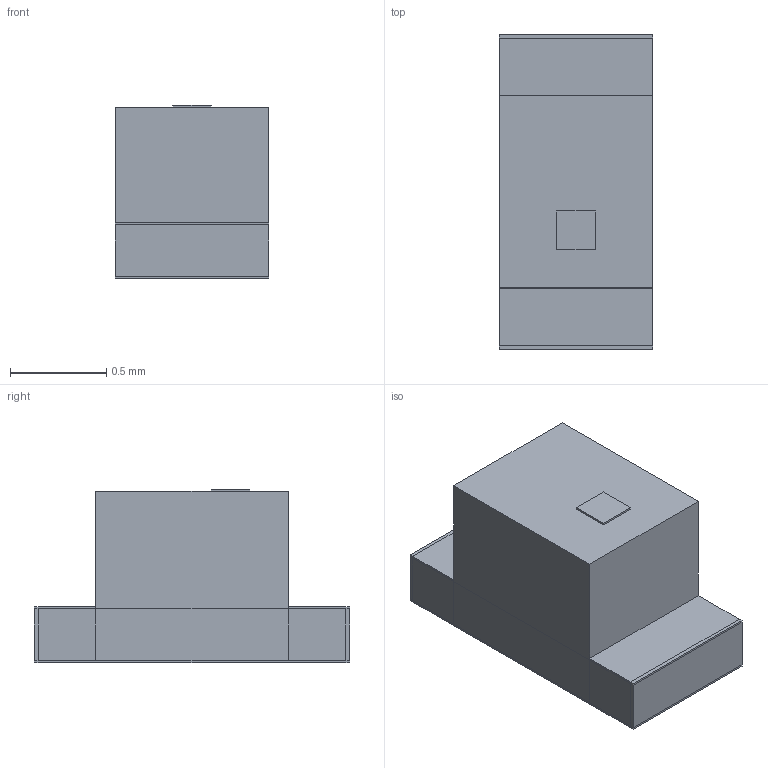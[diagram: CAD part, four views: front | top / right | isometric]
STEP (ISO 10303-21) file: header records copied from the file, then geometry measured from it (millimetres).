
FILE_DESCRIPTION(('FreeCAD Model'),'2;1');
FILE_NAME('/var/www/3D/0T/612592.2.3.stp','2023-07-01T04:24:02',( 'Author'),(''),'Open CASCADE STEP processor 6.9','FreeCAD','Unknown' );
FILE_SCHEMA(('AUTOMOTIVE_DESIGN { 1 0 10303 214 1 1 1 1 }'));
Length unit declared in the file: millimetre
Products named in the file (4): ASSEMBLY; solidBody; solidLead; solidDice
Assembly tree (3 placements, depth 2):
  ASSEMBLY
    solidBody
    solidLead
    solidDice
Bounding box: 0.8 x 1.64 x 0.9 mm (x, y, z)
Volume: 0.9 mm3; surface area: 9.1 mm2
Topology: 4 solids, 4 shells, 72 faces, 144 edges, 80 vertices
Faces by surface type: plane 72
Entity records: 3720 total; most frequent: CARTESIAN_POINT 604, DIRECTION 568, LINE 416, VECTOR 416, ORIENTED_EDGE 288, PCURVE 288, DEFINITIONAL_REPRESENTATION 288, EDGE_CURVE 144
